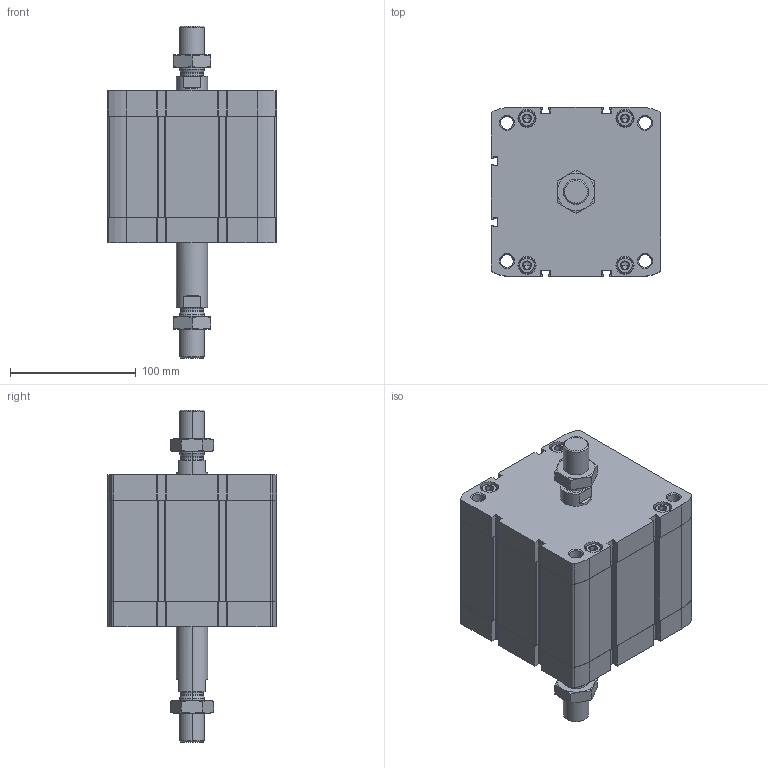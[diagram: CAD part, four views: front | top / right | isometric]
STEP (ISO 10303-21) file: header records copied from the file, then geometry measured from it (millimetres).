
FILE_DESCRIPTION (( 'STEP AP203' ), '1' );
FILE_NAME ('CCN125-40-P.STEP', '2020-06-22T19:14:12', ( '' ), ( '' ), 'SwSTEP 2.0', 'SolidWorks 2019', '' );
FILE_SCHEMA (( 'CONFIG_CONTROL_DESIGN' ));
Length unit declared in the file: millimetre
Products named in the file (1): CCN125-40-P
Bounding box: 134.6 x 134.6 x 264.4 mm (x, y, z)
Volume: 1688007.1 mm3; surface area: 244045.7 mm2
Topology: 4 solids, 4 shells, 592 faces, 1496 edges, 936 vertices
Faces by surface type: plane 288, cylinder 204, cone 92, torus 8
Entity records: 19603 total; most frequent: CARTESIAN_POINT 5061, DIRECTION 3146, ORIENTED_EDGE 2960, EDGE_CURVE 1480, AXIS2_PLACEMENT_3D 1165, VERTEX_POINT 936, VECTOR 816, LINE 816
